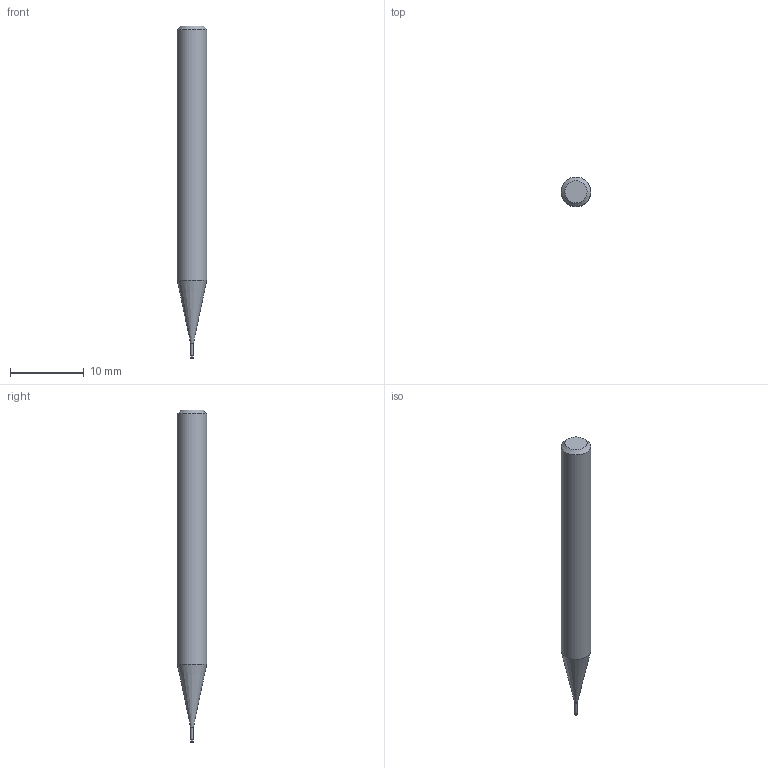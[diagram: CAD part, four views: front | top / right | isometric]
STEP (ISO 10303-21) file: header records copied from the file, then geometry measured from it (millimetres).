
FILE_DESCRIPTION((''),'2;1');
FILE_NAME('C:\Users\nsx150\AppData\Local\Temp\Mastercam 2021\3SYKECWX22\TEMP.step','2021-04-22T09:44:53',(''),(''),'STEP Write','Mastercam 2021 ... CNC Software, Inc.','');
FILE_SCHEMA(('AUTOMOTIVE_DESIGN'));
Length unit declared in the file: millimetre
Products named in the file (1): None
Bounding box: 4 x 4 x 45 mm (x, y, z)
Volume: 471.2 mm3; surface area: 504.2 mm2
Topology: 2 solids, 2 shells, 10 faces, 14 edges, 8 vertices
Faces by surface type: plane 4, cylinder 3, cone 2, torus 1
Full cylindrical faces by diameter (mm): 0.37 x1, 0.4 x1, 4 x1
Entity records: 232 total; most frequent: DIRECTION 40, CARTESIAN_POINT 28, AXIS2_PLACEMENT_3D 20, ORIENTED_EDGE 16, EDGE_LOOP 16, STYLED_ITEM 13, ADVANCED_FACE 10, FACE_BOUND 10
